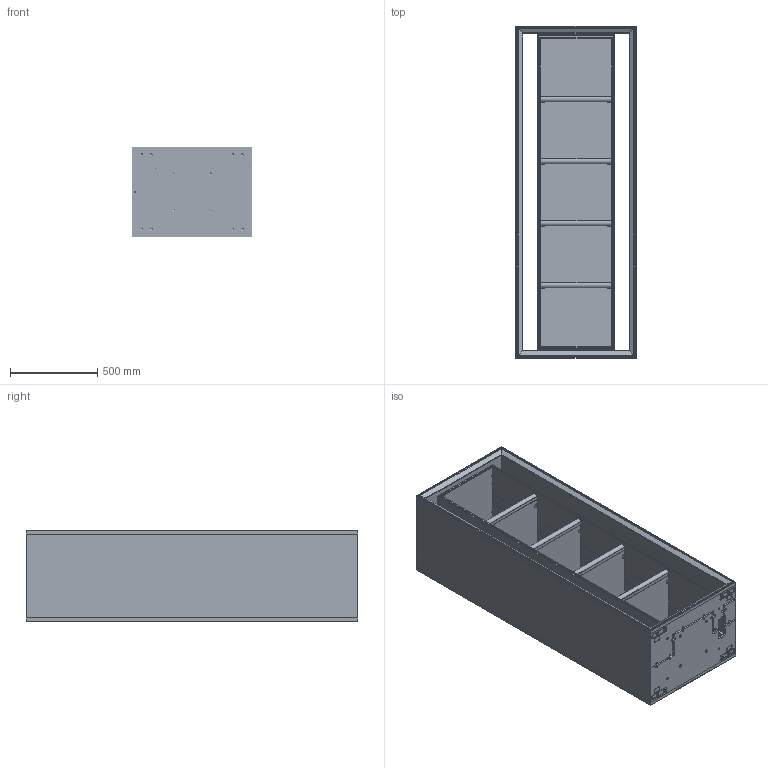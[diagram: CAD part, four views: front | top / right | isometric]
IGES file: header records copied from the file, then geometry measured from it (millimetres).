
Global section: file name: 80053; native system: Autodesk Inventor 2014; preprocessor: unknown; author: Robertom; date: 20140526.111730; units: millimetre
Bounding box: 690 x 1900 x 520 mm (x, y, z)
Volume: 145443477.9 mm3; surface area: 16012468.6 mm2
Topology: 76 solids, 76 shells, 2644 faces, 7800 edges, 5406 vertices
Faces by surface type: bspline 2644
